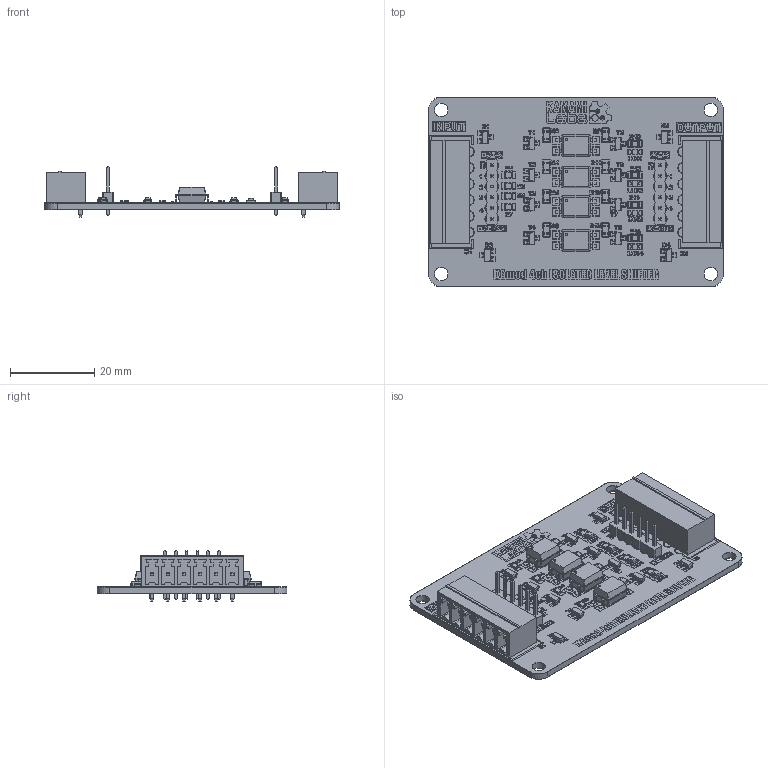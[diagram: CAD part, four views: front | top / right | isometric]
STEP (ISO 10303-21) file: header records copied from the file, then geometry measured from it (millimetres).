
FILE_DESCRIPTION(('KiCad electronic assembly'),'2;1');
FILE_NAME('Stan wysoki na wyj_ciu 4.step','2026-08-15T19:18:27',( 'Pcbnew'),('Kicad'),'Open CASCADE STEP processor 7.9', 'KiCad to STEP converter','Unknown');
FILE_SCHEMA(('AUTOMOTIVE_DESIGN { 1 0 10303 214 1 1 1 1 }'));
Length unit declared in the file: millimetre
Products named in the file (13): Stan wysoki na wyj_ciu 4 1; SOT-23; PhoenixContact_MC_1,5_6-G-3.81_1x06_P3.81mm_Horizontal; R_0805_2012Metric; LED_0805_2012Metric_Castellated; SSO-4_6.7x5.1mm_P2.54mm_Clearance8mm; PinHeader_1x06_P2.54mm_Vertical; KAmod_4ch_isol_lvl_shifter_pad; KAmod_4ch_isol_lvl_shifter_silkscreen; KAmod_4ch_isol_lvl_shifter_soldermask; KAmod_4ch_isol_lvl_shifter_PCB
Assembly tree (46 placements, depth 2):
  Stan wysoki na wyj_ciu 4 1
    SOT-23  x12
    PhoenixContact_MC_1,5_6-G-3.81_1x06_P3.81mm_Horizontal  x2
    R_0805_2012Metric  x16
    LED_0805_2012Metric_Castellated  x4
    SSO-4_6.7x5.1mm_P2.54mm_Clearance8mm  x4
    PinHeader_1x06_P2.54mm_Vertical  x2
    KAmod_4ch_isol_lvl_shifter_pad
    KAmod_4ch_isol_lvl_shifter_silkscreen
    KAmod_4ch_isol_lvl_shifter_silkscreen
    KAmod_4ch_isol_lvl_shifter_soldermask
    KAmod_4ch_isol_lvl_shifter_soldermask
    KAmod_4ch_isol_lvl_shifter_PCB
Bounding box: 70 x 45 x 11.94 mm (x, y, z)
Volume: 7494.4 mm3; surface area: 19370.2 mm2
Topology: 205 solids, 410 shells, 3751 faces, 15519 edges, 12463 vertices
Faces by surface type: plane 2815, cylinder 632, bspline 304
Full cylindrical faces by diameter (mm): 0.5 x4, 0.966 x36, 1.016 x24, 1.45 x36, 1.5 x24, 3.2 x4
Entity records: 112257 total; most frequent: CARTESIAN_POINT 22187, DIRECTION 16051, ORIENTED_EDGE 14201, EDGE_CURVE 10658, VERTEX_POINT 9418, LINE 8783, VECTOR 8783, AXIS2_PLACEMENT_3D 3634
